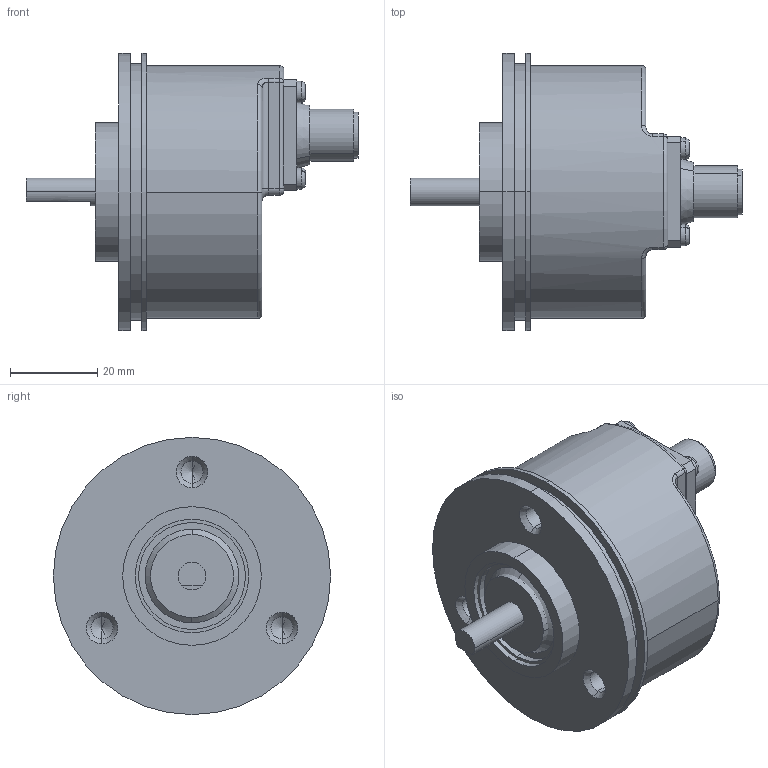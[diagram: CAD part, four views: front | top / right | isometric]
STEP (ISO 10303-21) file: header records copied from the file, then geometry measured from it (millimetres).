
FILE_DESCRIPTION (( 'STEP AP203' ), '1' );
FILE_NAME ('K58I.OXX.XXXXX.XS1V51A.6XAC5.step', '2025-12-08T15:36:22', ( '' ), ( '' ), 'SwSTEP 2.0', 'SolidWorks 2021', '' );
FILE_SCHEMA (( 'CONFIG_CONTROL_DESIGN' ));
Length unit declared in the file: millimetre
Products named in the file (1): K58I.OXX.XXXXX.XS1V51A.6XAC5
Bounding box: 76.06 x 63.5 x 63.5 mm (x, y, z)
Volume: 130400.8 mm3; surface area: 30415.8 mm2
Topology: 5 solids, 5 shells, 381 faces, 961 edges, 617 vertices
Faces by surface type: cylinder 160, plane 107, bspline 72, sphere 18, cone 16, torus 8
Entity records: 15514 total; most frequent: CARTESIAN_POINT 6700, ORIENTED_EDGE 1846, DIRECTION 1743, EDGE_CURVE 923, AXIS2_PLACEMENT_3D 666, VERTEX_POINT 601, EDGE_LOOP 434, VECTOR 411
